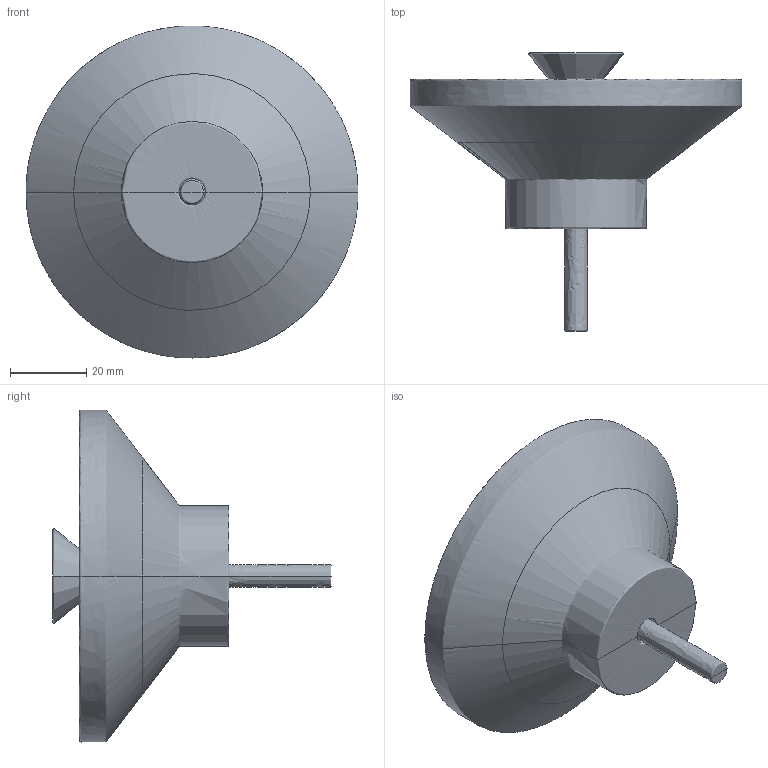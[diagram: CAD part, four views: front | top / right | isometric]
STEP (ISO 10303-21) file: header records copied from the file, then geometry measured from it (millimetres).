
FILE_DESCRIPTION(/* description */ (''),/* implementation_level */ '2;1');
FILE_NAME(/* name */ 'MILLIO~1',/* time_stamp */ '2016-08-22T15:51:56+02:00',/* author */ (''),/* organization */ (''),/* preprocessor_version */ 'ST-DEVELOPER v15',/* originating_system */ '',/* authorisation */ '');
FILE_SCHEMA (('AUTOMOTIVE_DESIGN'));
Length unit declared in the file: millimetre
Products named in the file (1): Document
Bounding box: 87 x 72.91 x 87 mm (x, y, z)
Volume: 26621.6 mm3; surface area: 22822.8 mm2
Topology: 3 solids, 3 shells, 8 faces, 22 edges, 12 vertices
Faces by surface type: bspline 8
Entity records: 1663 total; most frequent: CARTESIAN_POINT 1529, ORIENTED_EDGE 24, EDGE_CURVE 12, ADVANCED_FACE 8, FACE_OUTER_BOUND 8, EDGE_LOOP 8, VERTEX_POINT 8, DIRECTION 6
